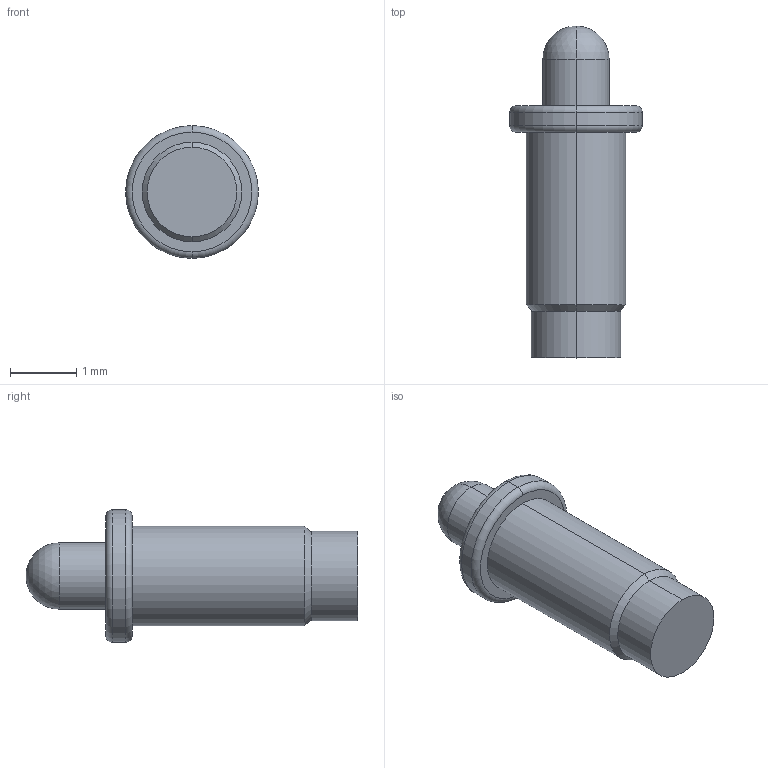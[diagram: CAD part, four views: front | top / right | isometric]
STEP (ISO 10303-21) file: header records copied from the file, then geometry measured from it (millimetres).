
FILE_DESCRIPTION((''),'2;1');
FILE_NAME('PRT0012','2023-05-26T15:55:03',('USER'),(''),'CREO PARAMETRIC BY PTC INC, 2020154','CREO PARAMETRIC BY PTC INC, 2020154','');
FILE_SCHEMA(('CONFIG_CONTROL_DESIGN'));
Length unit declared in the file: millimetre
Products named in the file (1): PRT0012
Bounding box: 2 x 5 x 2 mm (x, y, z)
Volume: 7.8 mm3; surface area: 26.8 mm2
Topology: 1 solids, 1 shells, 20 faces, 40 edges, 23 vertices
Faces by surface type: cylinder 8, plane 4, torus 4, cone 2, sphere 2
Entity records: 552 total; most frequent: DIRECTION 106, CARTESIAN_POINT 81, ORIENTED_EDGE 76, AXIS2_PLACEMENT_3D 48, EDGE_CURVE 38, CIRCLE 28, VERTEX_POINT 23, EDGE_LOOP 23
